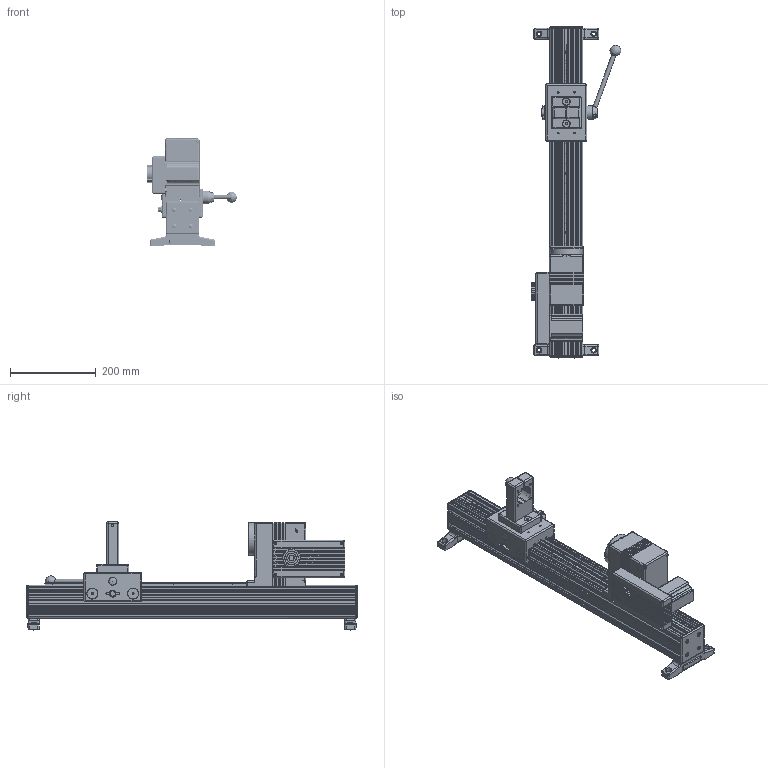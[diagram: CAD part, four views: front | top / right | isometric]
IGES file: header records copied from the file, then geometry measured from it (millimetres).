
Global section: file name: TSTMH; native system: Autodesk RealDWG; preprocessor: Autodesk Translation Framework DWG producer (atf_dwg_producer); organization: unknown; date: 20200430.163741; units: inch
Bounding box: 208.99 x 772.59 x 251.78 mm (x, y, z)
Volume: 6378761.9 mm3; surface area: 899164.2 mm2
Topology: 10 solids, 17 shells, 3220 faces, 8769 edges, 5769 vertices
Faces by surface type: bspline 3220
